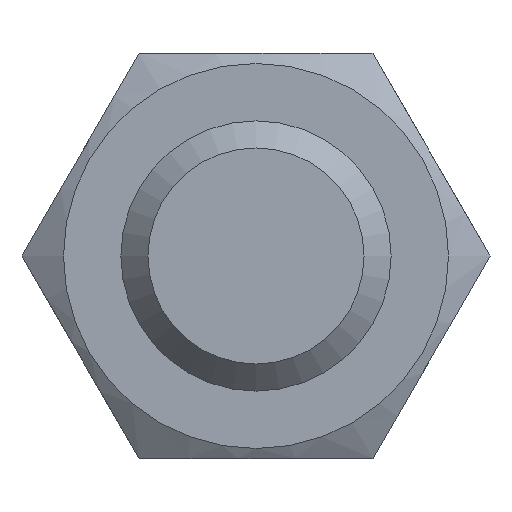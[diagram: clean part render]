
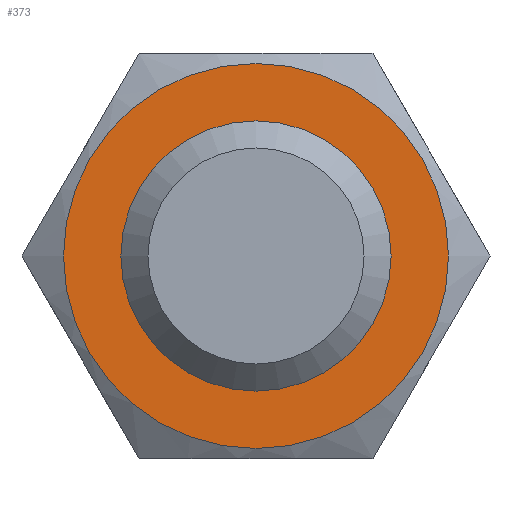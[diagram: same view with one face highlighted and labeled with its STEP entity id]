
A CAD part, left-side view. The second image highlights one B-rep face of the part: STEP entity #373.
In plain terms, the highlighted planar face has unit normal (-1, 0, 0) as drawn and (0, 0, 1) by its records, which use the part's own axes.
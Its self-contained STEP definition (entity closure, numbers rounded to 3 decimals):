
#373=ADVANCED_FACE('',(#668,#670),#672,.T.);
#668=FACE_BOUND('',#669,.T.);
#669=EDGE_LOOP('',(#845));
#670=FACE_BOUND('',#671,.T.);
#671=EDGE_LOOP('',(#846));
#672=PLANE('',#673);
#673=AXIS2_PLACEMENT_3D('',#674,#675,#676);
#674=CARTESIAN_POINT('',(0.,0.,18.));
#675=DIRECTION('',(0.,0.,1.));
#676=DIRECTION('',(1.,0.,0.));
#845=ORIENTED_EDGE('',*,*,#927,.T.);
#846=ORIENTED_EDGE('',*,*,#928,.T.);
#927=EDGE_CURVE('',#1058,#1058,#1059,.F.);
#928=EDGE_CURVE('',#1060,#1060,#1061,.F.);
#1058=VERTEX_POINT('',#2331);
#1059=CIRCLE('',#2332,14.25);
#1060=VERTEX_POINT('',#2336);
#1061=CIRCLE('',#2337,10.);
#2331=CARTESIAN_POINT('',(0.,14.25,18.));
#2332=AXIS2_PLACEMENT_3D('',#2333,#2334,#2335);
#2333=CARTESIAN_POINT('',(0.,0.,18.));
#2334=DIRECTION('',(0.,0.,-1.));
#2335=DIRECTION('',(0.,1.,0.));
#2336=CARTESIAN_POINT('',(10.,0.,18.));
#2337=AXIS2_PLACEMENT_3D('',#2338,#2339,#2340);
#2338=CARTESIAN_POINT('',(0.,0.,18.));
#2339=DIRECTION('',(0.,0.,1.));
#2340=DIRECTION('',(1.,0.,0.));
